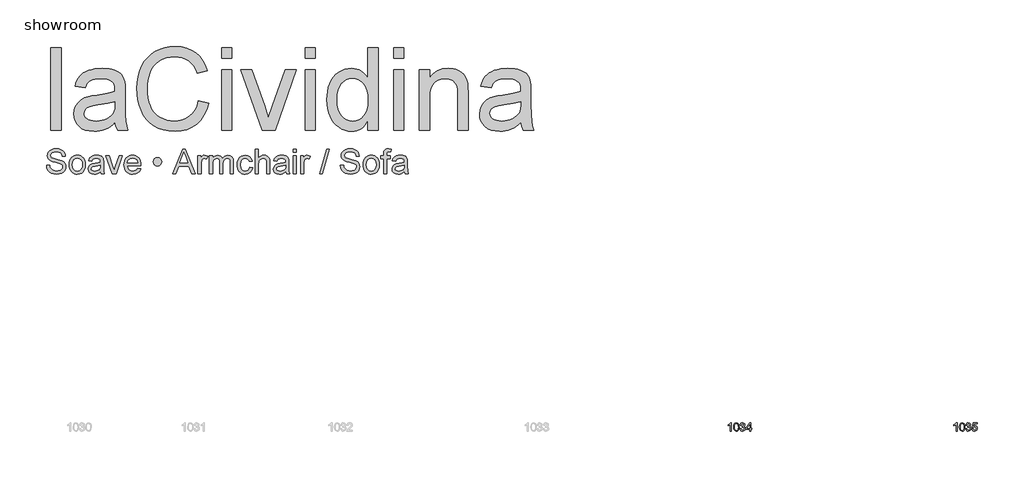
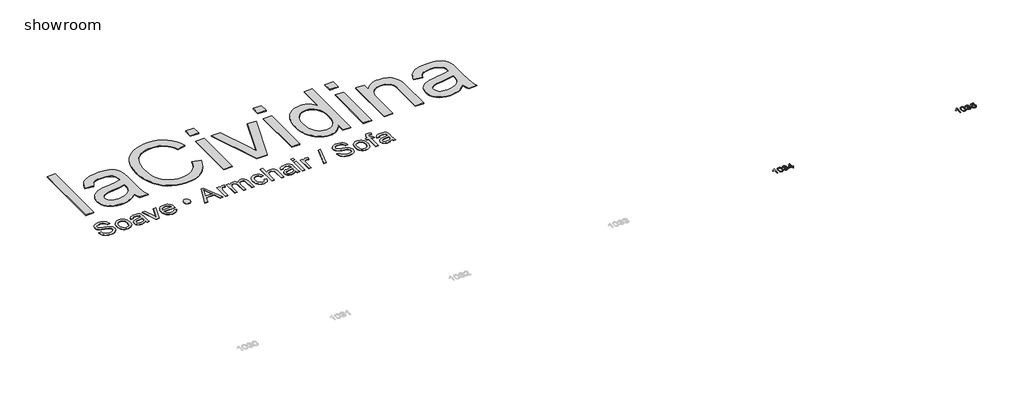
# One storey, part 2 of 2: 4 proxies.
"""IFC4 building model written with IfcOpenShell, lengths in millimetres."""

from ifc_helpers import new_model, si_unit, origin, origin_with_axes, place, context, project, spatial, polyline, outline, extrude, element, save

model = new_model("IFC4")

# Units and contexts
model_context = context("Model", 3, world=origin())
ifc_project = project(units=[si_unit("LENGTHUNIT", "METRE", prefix="MILLI")], contexts=[model_context])

# Site, building, storey
site = spatial("IfcSite", under=ifc_project)
building = spatial("IfcBuilding", under=site)
storey = spatial("IfcBuildingStorey", under=building, Name="showroom", Elevation=0.0)

# Proxies
placement = place(None, origin())
element("IfcBuildingElementProxy", 1, Name="1000mm Arial", ObjectType="1000mm Arial", at=placement, inside=storey, context=model_context, shape_type="SweptSolid", body=[
    extrude(outline(polyline([(-1952.8965336, 4695.1020807), (-1952.8965336, 5699.6651822), (-1827.326146, 5699.6651822), (-1827.326146, 4695.1020807), (-1952.8965336, 4695.1020807)])), origin_with_axes(), (0.0, 0.0, 1.0), 10.0),
    extrude(outline(polyline([(-1168.0816106, 4789.2798714), (-1197.8570596, 4761.3361682), (-1228.0770326, 4737.8377058), (-1258.7415298, 4718.7844841), (-1289.850551, 4704.1765032), (-1321.7566499, 4693.3393128), (-1354.81238, 4685.5984625), (-1389.0177413, 4680.9539523), (-1424.3727339, 4679.4057822), (-1480.283133, 4683.1305874), (-1529.311073, 4694.305003), (-1571.4565541, 4712.929029), (-1606.7195762, 4739.0026654), (-1634.5636447, 4770.8704433), (-1654.4522651, 4806.8768935), (-1666.3854373, 4847.0220163), (-1670.3631613, 4891.3058114), (-1664.3544221, 4943.3611138), (-1656.843498, 4967.5953402), (-1646.3282043, 4990.6339501), (-1618.5224569, 5031.1009696), (-1583.1751285, 5062.7388212), (-1541.6351199, 5086.6511509), (-1495.2513316, 5103.9416046), (-1450.0631599, 5113.5678502), (-1386.6035157, 5122.8262137), (-1258.2126994, 5142.6918415), (-1208.6406006, 5153.9122423), (-1168.8173746, 5165.9910345), (-1168.0816106, 5193.9500661), (-1170.2429173, 5224.3923012), (-1176.7268375, 5249.9907567), (-1187.5333711, 5270.7454326), (-1202.6625181, 5286.6563289), (-1228.8127966, 5302.5365684), (-1260.665246, 5313.8795966), (-1298.2198664, 5320.6854135), (-1341.4766577, 5322.9540191), (-1381.6984225, 5321.4441701), (-1416.27933, 5316.914623), (-1445.2193803, 5309.3653779), (-1468.5185733, 5298.7964348), (-1487.6637655, 5284.3800591), (-1504.1418132, 5265.2885164), (-1517.9527164, 5241.5218066), (-1529.0964752, 5213.0799299), (-1654.6668629, 5228.7762283), (-1645.1095952, 5264.9512912), (-1632.8698547, 5297.4475341), (-1617.9476412, 5326.2649571), (-1600.3429549, 5351.4035601), (-1579.2970391, 5373.3691809), (-1554.0511372, 5392.6676572), (-1524.6052492, 5409.2989891), (-1490.959375, 5423.2631765), (-1453.7956293, 5434.3149647), (-1413.7961265, 5442.2090992), (-1370.9608667, 5446.9455799), (-1325.2898499, 5448.5244068), (-1240.4010795, 5442.9448632), (-1204.5555776, 5435.9704337), (-1173.1093312, 5426.2062324), (-1122.3722727, 5401.0369726), (-1102.8208775, 5386.3140286), (-1087.1475717, 5370.1655418), (-1063.787065, 5331.9977848), (-1048.6425895, 5284.9395463), (-1044.0440646, 5241.5294708), (-1042.5112229, 5175.065457), (-1042.5112229, 5018.8382364), (-1040.9170676, 4882.752555), (-1036.1346017, 4800.6842133), (-1026.6922971, 4746.7588442), (-1011.118626, 4695.1020807), (-1136.6890137, 4695.1020807), (-1156.7998961, 4738.7574108), (-1168.0816106, 4789.2798714)]), holes=[polyline([(-1168.0816106, 5040.4206468), (-1252.4492148, 5019.5126868), (-1370.6619626, 5001.9156646), (-1435.8077326, 4992.2894191), (-1478.6966419, 4981.5595276), (-1506.8089577, 4967.6413254), (-1527.6249472, 4948.450148), (-1540.500817, 4925.4575233), (-1544.7927737, 4900.1349793), (-1542.4551901, 4880.6219052), (-1535.4424396, 4862.7949568), (-1523.7545221, 4846.6541343), (-1507.3914375, 4832.1994375), (-1486.50647, 4820.2892579), (-1461.2529039, 4811.7819868), (-1431.6307391, 4806.6776241), (-1397.6399756, 4804.9761699), (-1362.9364407, 4806.8539009), (-1330.1949431, 4812.487094), (-1299.4154829, 4821.8757491), (-1270.5980599, 4835.0198662), (-1244.6010656, 4850.8311278), (-1222.2828912, 4868.2212162), (-1203.6435368, 4887.1901316), (-1188.6830023, 4907.7378739), (-1179.9917902, 4926.1319736), (-1173.7837815, 4948.450148), (-1168.8173746, 5004.8587206), (-1168.0816106, 5040.4206468)])]), origin_with_axes(), (0.0, 0.0, 1.0), 10.0),
    extrude(outline(polyline([(-147.8222106, 5052.1928707), (-22.2518229, 5019.8192551), (-47.099186, 4941.7286374), (-80.1932372, 4873.4941915), (-121.5339764, 4815.1159174), (-145.296854, 4789.6228448), (-171.1214037, 4766.5938151), (-227.8365446, 4728.4490507), (-290.5604248, 4701.2027904), (-359.2930442, 4684.8550343), (-434.0344029, 4679.4057822), (-510.6075073, 4683.5291262), (-579.6850161, 4695.8991583), (-641.2669293, 4716.5158785), (-695.3532468, 4745.3792867), (-742.6873968, 4782.0601873), (-784.0128076, 4826.1293846), (-819.3294792, 4877.5868787), (-848.6374114, 4936.4326695), (-871.6530288, 5000.1222399), (-888.0927554, 5066.1110728), (-897.9565914, 5134.3991682), (-901.2445368, 5204.986526), (-897.5273958, 5280.7242317), (-886.3759728, 5351.4648737), (-867.7902678, 5417.208452), (-841.7702809, 5477.9549664), (-808.8984918, 5532.7004058), (-769.7573803, 5580.4407589), (-724.3469465, 5621.1760257), (-672.6671904, 5654.9062061), (-616.4732157, 5681.3553887), (-557.5201259, 5700.247662), (-495.8079212, 5711.583026), (-431.3366016, 5715.3614806), (-359.5153062, 5710.4717158), (-293.6567649, 5695.8024212), (-233.7609776, 5671.353597), (-179.8279442, 5637.125243), (-132.746713, 5594.0217359), (-93.4063322, 5542.9474522), (-61.8068016, 5483.902392), (-37.9481214, 5416.8865552), (-163.5185091, 5386.9654863), (-183.2921663, 5436.3459799), (-207.0512119, 5478.5374462), (-234.7956457, 5513.5398852), (-266.5254677, 5541.3532969), (-302.4246191, 5562.5448327), (-342.6770407, 5577.6816439), (-387.2827327, 5586.7637307), (-436.2416949, 5589.7910929), (-492.5736254, 5586.4341697), (-544.0924331, 5576.3634001), (-590.7981181, 5559.5787841), (-632.6906803, 5536.0803216), (-669.2412893, 5506.9256735), (-699.9211149, 5473.1725005), (-724.7301569, 5434.8208025), (-743.6684155, 5391.8705795), (-757.6709239, 5346.2685406), (-767.6727157, 5299.9613944), (-773.6737907, 5252.9491411), (-775.6741491, 5205.2317807), (-773.3059087, 5145.2670154), (-766.2011877, 5089.2263248), (-754.359986, 5037.1097089), (-737.7823036, 4988.9171675), (-716.1998932, 4945.6067268), (-689.3445075, 4908.1364127), (-657.2161466, 4876.5062253), (-619.8148104, 4850.7161646), (-578.9569164, 4830.7049169), (-536.4588817, 4816.4111686), (-492.3207065, 4807.8349196), (-446.5423907, 4804.9761699), (-391.9502355, 4808.8695877), (-341.7266789, 4820.549841), (-295.8717211, 4840.0169299), (-254.3853619, 4867.2708544), (-218.2486201, 4902.1889871), (-188.4425143, 4944.6487007), (-164.9670445, 4994.6499952), (-147.8222106, 5052.1928707)])), origin_with_axes(), (0.0, 0.0, 1.0), 10.0),
    extrude(outline(polyline([(134.7111617, 4695.1020807), (134.7111617, 5432.8281083), (260.2815493, 5432.8281083), (260.2815493, 4695.1020807), (134.7111617, 4695.1020807)])), origin_with_axes(), (0.0, 0.0, 1.0), 10.0),
    extrude(outline(polyline([(134.7111617, 5574.0947945), (134.7111617, 5699.6651822), (260.2815493, 5699.6651822), (260.2815493, 5574.0947945), (134.7111617, 5574.0947945)])), origin_with_axes(), (0.0, 0.0, 1.0), 10.0),
    extrude(outline(polyline([(629.6350725, 4695.1020807), (370.1556386, 5432.8281083), (503.0836662, 5432.8281083), (660.2919054, 4990.8792048), (707.6260555, 4842.2548787), (753.9791869, 4982.5405462), (912.1684448, 5432.8281083), (1045.0964724, 5432.8281083), (788.8053491, 4695.1020807), (629.6350725, 4695.1020807)])), origin_with_axes(), (0.0, 0.0, 1.0), 10.0),
    extrude(outline(polyline([(1154.9705616, 4695.1020807), (1154.9705616, 5432.8281083), (1280.5409493, 5432.8281083), (1280.5409493, 4695.1020807), (1154.9705616, 4695.1020807)])), origin_with_axes(), (0.0, 0.0, 1.0), 10.0),
    extrude(outline(polyline([(1154.9705616, 5574.0947945), (1154.9705616, 5699.6651822), (1280.5409493, 5699.6651822), (1280.5409493, 5574.0947945), (1154.9705616, 5574.0947945)])), origin_with_axes(), (0.0, 0.0, 1.0), 10.0),
    extrude(outline(polyline([(1924.0891862, 4695.1020807), (1924.0891862, 4813.5600831), (1906.2967268, 4782.1176688), (1886.5192374, 4754.8675765), (1864.7567182, 4731.809806), (1841.009169, 4712.9443574), (1815.2765898, 4698.2712308), (1787.5589807, 4687.790426), (1757.8563417, 4681.5019432), (1726.1686728, 4679.4057822), (1684.7206347, 4682.4408087), (1644.9893792, 4691.5458881), (1606.9749064, 4706.7210204), (1570.6772162, 4727.9662056), (1537.2306114, 4754.6453144), (1507.769395, 4786.1222176), (1482.2935668, 4822.3969152), (1460.8031269, 4863.4694071), (1443.7425994, 4908.5579442), (1431.5565083, 4956.8807771), (1424.2448537, 5008.4379059), (1421.8076355, 5063.2293305), (1424.0532485, 5117.0167439), (1430.7900875, 5168.2596401), (1442.0181526, 5216.9580192), (1457.7374436, 5263.1118812), (1477.9402965, 5305.3723254), (1502.6190471, 5342.3904512), (1531.7736952, 5374.1662585), (1565.4042409, 5400.6997474), (1602.322732, 5421.6230359), (1641.3412161, 5436.568242), (1682.4596932, 5445.5353656), (1725.6781635, 5448.5244068), (1757.2853582, 5446.3860927), (1787.1144567, 5439.9711504), (1815.1654588, 5429.2795799), (1841.4383646, 5414.3113812), (1865.6419342, 5395.9249457), (1887.4849277, 5374.9786646), (1906.967345, 5351.4725379), (1924.0891862, 5325.4065657), (1924.0891862, 5699.6651822), (2049.6595739, 5699.6651822), (2049.6595739, 4695.1020807), (1924.0891862, 4695.1020807)]), holes=[polyline([(1547.3780231, 5063.7198398), (1550.9188873, 5002.8277054), (1561.54148, 4950.1362738), (1579.245801, 4905.645545), (1604.0318504, 4869.3555191), (1633.6310226, 4841.1895538), (1665.7747119, 4821.0710072), (1700.4629184, 4808.9998792), (1737.695642, 4804.9761699), (1775.1046424, 4808.8159382), (1809.5859152, 4820.3352432), (1841.1394605, 4839.5340848), (1869.7652782, 4866.4124631), (1893.531988, 4901.1849758), (1910.5082092, 4944.0662209), (1920.693942, 4995.0561983), (1924.0891862, 5054.154908), (1920.6326283, 5118.9481244), (1910.2629545, 5174.5136341), (1892.980165, 5220.851437), (1868.7842596, 5257.9615333), (1839.5299768, 5286.3957458), (1807.0720549, 5306.7058977), (1771.410494, 5318.8919887), (1732.545294, 5322.9540191), (1694.5768065, 5319.0529371), (1659.8886, 5307.3496911), (1628.4806747, 5287.8442812), (1600.3530304, 5260.5367073), (1577.1764647, 5224.8291611), (1560.621775, 5180.1238345), (1550.6889611, 5126.4207274), (1547.3780231, 5063.7198398)])]), origin_with_axes(), (0.0, 0.0, 1.0), 10.0),
    extrude(outline(polyline([(2238.0151554, 4695.1020807), (2238.0151554, 5432.8281083), (2363.5855431, 5432.8281083), (2363.5855431, 4695.1020807), (2238.0151554, 4695.1020807)])), origin_with_axes(), (0.0, 0.0, 1.0), 10.0),
    extrude(outline(polyline([(2238.0151554, 5574.0947945), (2238.0151554, 5699.6651822), (2363.5855431, 5699.6651822), (2363.5855431, 5574.0947945), (2238.0151554, 5574.0947945)])), origin_with_axes(), (0.0, 0.0, 1.0), 10.0),
    extrude(outline(polyline([(2551.9411246, 4695.1020807), (2551.9411246, 5432.8281083), (2677.5115123, 5432.8281083), (2677.5115123, 5329.8211497), (2698.2278672, 5357.6422256), (2721.1361856, 5381.7538247), (2746.2364675, 5402.155947), (2773.5287131, 5418.8485925), (2803.0129221, 5431.8317613), (2834.6890948, 5441.1054532), (2868.5572309, 5446.6696684), (2904.6173307, 5448.5244068), (2966.5134764, 5442.5463244), (2995.5071761, 5435.0737213), (3023.1979605, 5424.6120771), (3048.5358329, 5411.7208789), (3070.4707968, 5396.9596138), (3089.0028523, 5380.3282819), (3104.1319994, 5361.8268833), (3126.9713399, 5319.305856), (3141.7785902, 5269.4885025), (3146.7449972, 5221.8477841), (3148.4004661, 5148.0874441), (3148.4004661, 4695.1020807), (3022.8300785, 4695.1020807), (3022.8300785, 5131.1648723), (3019.2125722, 5196.0960444), (3008.3600533, 5242.2652348), (2999.7378191, 5259.7319654), (2988.3411414, 5275.3439576), (2974.1700204, 5289.1012113), (2957.224456, 5301.0037267), (2917.3399163, 5317.466446), (2871.0174418, 5322.9540191), (2832.8880058, 5319.8730074), (2797.4716996, 5310.6299723), (2764.7685231, 5295.2249137), (2734.7784762, 5273.6578318), (2709.7241795, 5243.4761797), (2691.8282533, 5202.227411), (2681.0906976, 5149.9115256), (2677.5115123, 5086.5285235), (2677.5115123, 4695.1020807), (2551.9411246, 4695.1020807)])), origin_with_axes(), (0.0, 0.0, 1.0), 10.0),
    extrude(outline(polyline([(3791.948703, 4789.2798714), (3762.1732541, 4761.3361682), (3731.953281, 4737.8377058), (3701.2887839, 4718.7844841), (3670.1797626, 4704.1765032), (3638.2736638, 4693.3393128), (3605.2179337, 4685.5984625), (3571.0125723, 4680.9539523), (3535.6575797, 4679.4057822), (3479.7471807, 4683.1305874), (3430.7192406, 4694.305003), (3388.5737595, 4712.929029), (3353.3107375, 4739.0026654), (3325.466669, 4770.8704433), (3305.5780486, 4806.8768935), (3293.6448764, 4847.0220163), (3289.6671523, 4891.3058114), (3295.6758915, 4943.3611138), (3303.1868156, 4967.5953402), (3313.7021093, 4990.6339501), (3341.5078568, 5031.1009696), (3376.8551852, 5062.7388212), (3418.3951938, 5086.6511509), (3464.778982, 5103.9416046), (3509.9671537, 5113.5678502), (3573.4267979, 5122.8262137), (3701.8176142, 5142.6918415), (3751.3897131, 5153.9122423), (3791.2129391, 5165.9910345), (3791.948703, 5193.9500661), (3789.7873963, 5224.3923012), (3783.3034762, 5249.9907567), (3772.4969425, 5270.7454326), (3757.3677955, 5286.6563289), (3731.217517, 5302.5365684), (3699.3650676, 5313.8795966), (3661.8104472, 5320.6854135), (3618.553656, 5322.9540191), (3578.3318912, 5321.4441701), (3543.7509836, 5316.914623), (3514.8109333, 5309.3653779), (3491.5117403, 5298.7964348), (3472.3665481, 5284.3800591), (3455.8885004, 5265.2885164), (3442.0775972, 5241.5218066), (3430.9338384, 5213.0799299), (3305.3634508, 5228.7762283), (3314.9207184, 5264.9512912), (3327.160459, 5297.4475341), (3342.0826724, 5326.2649571), (3359.6873587, 5351.4035601), (3380.7332745, 5373.3691809), (3405.9791764, 5392.6676572), (3435.4250645, 5409.2989891), (3469.0709386, 5423.2631765), (3506.2346843, 5434.3149647), (3546.2341871, 5442.2090992), (3589.0694469, 5446.9455799), (3634.7404638, 5448.5244068), (3719.6292342, 5442.9448632), (3755.4747361, 5435.9704337), (3786.9209824, 5426.2062324), (3837.6580409, 5401.0369726), (3857.2094361, 5386.3140286), (3872.882742, 5370.1655418), (3896.2432487, 5331.9977848), (3911.3877241, 5284.9395463), (3915.9862491, 5241.5294708), (3917.5190907, 5175.065457), (3917.5190907, 5018.8382364), (3919.113246, 4882.752555), (3923.895712, 4800.6842133), (3933.3380165, 4746.7588442), (3948.9116877, 4695.1020807), (3823.3413, 4695.1020807), (3803.2304176, 4738.7574108), (3791.948703, 4789.2798714)]), holes=[polyline([(3791.948703, 5040.4206468), (3707.5810988, 5019.5126868), (3589.368351, 5001.9156646), (3524.2225811, 4992.2894191), (3481.3336718, 4981.5595276), (3453.221356, 4967.6413254), (3432.4053664, 4948.450148), (3419.5294966, 4925.4575233), (3415.23754, 4900.1349793), (3417.5751235, 4880.6219052), (3424.587874, 4862.7949568), (3436.2757916, 4846.6541343), (3452.6388762, 4832.1994375), (3473.5238436, 4820.2892579), (3498.7774097, 4811.7819868), (3528.3995745, 4806.6776241), (3562.3903381, 4804.9761699), (3597.0938729, 4806.8539009), (3629.8353705, 4812.487094), (3660.6148308, 4821.8757491), (3689.4322537, 4835.0198662), (3715.429248, 4850.8311278), (3737.7474224, 4868.2212162), (3756.3867768, 4887.1901316), (3771.3473113, 4907.7378739), (3780.0385234, 4926.1319736), (3786.2465321, 4948.450148), (3791.2129391, 5004.8587206), (3791.948703, 5040.4206468)])]), origin_with_axes(), (0.0, 0.0, 1.0), 10.0),
])
element("IfcBuildingElementProxy", 2, Name="100mm Arial", ObjectType="100mm Arial", at=placement, inside=storey, context=model_context, shape_type="SweptSolid", body=[
    extrude(outline(polyline([(6365.5442765, 1015.1020807), (6352.9872377, 1015.1020807), (6352.9872377, 1093.3873692), (6341.0923866, 1084.9138206), (6327.8731602, 1078.5739876), (6327.8731602, 1090.4443133), (6346.2795227, 1102.1920117), (6357.4508726, 1115.5583908), (6365.5442765, 1115.5583908), (6365.5442765, 1015.1020807)])), origin_with_axes(), (0.0, 0.0, 1.0), 2.0),
    extrude(outline(polyline([(6395.3672436, 1064.5208954), (6399.0583263, 1093.4241574), (6410.0212097, 1110.0892118), (6428.3294703, 1115.5583908), (6442.9956992, 1112.3210293), (6453.1247168, 1102.9890893), (6459.0108287, 1088.1266567), (6461.2916971, 1064.5208954), (6457.6374026, 1035.7402606), (6446.7113074, 1019.038418), (6438.4799477, 1014.9089426), (6428.3294703, 1013.5324508), (6415.2819223, 1015.9236838), (6405.3736338, 1023.0973827), (6397.8688411, 1040.0873995), (6395.3672436, 1064.5208954)]), holes=[polyline([(6407.9242823, 1064.5454208), (6409.3958103, 1044.7932234), (6413.8103943, 1033.3612904), (6420.3832193, 1027.9074398), (6428.3294703, 1026.0894896), (6436.2757214, 1027.9135712), (6442.8485464, 1033.3858158), (6447.2631304, 1044.8238802), (6448.7346583, 1064.5454208), (6447.3121813, 1083.8530942), (6443.0447502, 1095.373932), (6436.4841879, 1101.094497), (6428.1823175, 1103.0013521), (6420.3219056, 1101.3213576), (6414.006598, 1096.2813743), (6409.4448613, 1084.0431666), (6407.9242823, 1064.5454208)])]), origin_with_axes(), (0.0, 0.0, 1.0), 2.0),
    extrude(outline(polyline([(6472.279106, 1041.7857881), (6484.8361448, 1043.3554179), (6491.764589, 1030.1361915), (6504.726298, 1026.0894896), (6513.3347367, 1027.4813098), (6519.9811381, 1031.6567705), (6525.6465208, 1045.4400825), (6520.030189, 1058.426317), (6505.7563676, 1063.5644022), (6496.9517252, 1062.1909761), (6498.3496768, 1074.7480148), (6500.360765, 1074.600862), (6514.610061, 1078.2061056), (6519.3557387, 1082.7801051), (6520.9376313, 1089.2916164), (6516.3513691, 1099.1140656), (6504.5300943, 1103.0013521), (6492.5616667, 1099.0772774), (6486.4057747, 1087.3050536), (6473.8487359, 1088.8746834), (6477.5459499, 1100.1502666), (6484.1249063, 1108.5686329), (6493.1257524, 1113.8109513), (6504.0886359, 1115.5583908), (6519.2331114, 1112.1125628), (6529.8281128, 1102.6947837), (6533.49467, 1090.0273804), (6530.0120538, 1078.4513602), (6519.7113579, 1070.1372272), (6533.3965682, 1061.5533139), (6538.2035596, 1045.2193533), (6535.8000639, 1032.9811456), (6528.5895768, 1022.7540262), (6517.7064011, 1015.8378447), (6504.2848396, 1013.5324508), (6492.1447338, 1015.5006195), (6482.2609708, 1021.4051255), (6475.3877089, 1030.4366285), (6472.279106, 1041.7857881)])), origin_with_axes(), (0.0, 0.0, 1.0), 2.0),
    extrude(outline(polyline([(6590.0013445, 1015.1020807), (6590.0013445, 1038.6465284), (6544.482079, 1038.6465284), (6544.482079, 1051.2035671), (6593.1406042, 1113.988761), (6602.5583833, 1113.988761), (6602.5583833, 1051.2035671), (6615.115422, 1051.2035671), (6615.115422, 1038.6465284), (6602.5583833, 1038.6465284), (6602.5583833, 1015.1020807), (6590.0013445, 1015.1020807)]), holes=[polyline([(6590.0013445, 1051.2035671), (6590.0013445, 1090.0028549), (6559.9331228, 1051.2035671), (6590.0013445, 1051.2035671)])]), origin_with_axes(), (0.0, 0.0, 1.0), 2.0),
])
element("IfcBuildingElementProxy", 3, Name="100mm Arial", ObjectType="100mm Arial", at=placement, inside=storey, context=model_context, shape_type="SweptSolid", body=[
    extrude(outline(polyline([(9125.5442765, 1015.1020807), (9112.9872377, 1015.1020807), (9112.9872377, 1093.3873692), (9101.0923866, 1084.9138206), (9087.8731602, 1078.5739876), (9087.8731602, 1090.4443133), (9106.2795227, 1102.1920117), (9117.4508726, 1115.5583908), (9125.5442765, 1115.5583908), (9125.5442765, 1015.1020807)])), origin_with_axes(), (0.0, 0.0, 1.0), 2.0),
    extrude(outline(polyline([(9155.3672436, 1064.5208954), (9159.0583263, 1093.4241574), (9170.0212097, 1110.0892118), (9188.3294703, 1115.5583908), (9202.9956992, 1112.3210293), (9213.1247168, 1102.9890893), (9219.0108287, 1088.1266567), (9221.2916971, 1064.5208954), (9217.6374026, 1035.7402606), (9206.7113074, 1019.038418), (9198.4799477, 1014.9089426), (9188.3294703, 1013.5324508), (9175.2819223, 1015.9236838), (9165.3736338, 1023.0973827), (9157.8688411, 1040.0873995), (9155.3672436, 1064.5208954)]), holes=[polyline([(9167.9242823, 1064.5454208), (9169.3958103, 1044.7932234), (9173.8103943, 1033.3612904), (9180.3832193, 1027.9074398), (9188.3294703, 1026.0894896), (9196.2757214, 1027.9135712), (9202.8485464, 1033.3858158), (9207.2631304, 1044.8238802), (9208.7346583, 1064.5454208), (9207.3121813, 1083.8530942), (9203.0447502, 1095.373932), (9196.4841879, 1101.094497), (9188.1823175, 1103.0013521), (9180.3219056, 1101.3213576), (9174.006598, 1096.2813743), (9169.4448613, 1084.0431666), (9167.9242823, 1064.5454208)])]), origin_with_axes(), (0.0, 0.0, 1.0), 2.0),
    extrude(outline(polyline([(9232.279106, 1041.7857881), (9244.8361448, 1043.3554179), (9251.764589, 1030.1361915), (9264.726298, 1026.0894896), (9273.3347367, 1027.4813098), (9279.9811381, 1031.6567705), (9285.6465208, 1045.4400825), (9280.030189, 1058.426317), (9265.7563676, 1063.5644022), (9256.9517252, 1062.1909761), (9258.3496768, 1074.7480148), (9260.360765, 1074.600862), (9274.610061, 1078.2061056), (9279.3557387, 1082.7801051), (9280.9376313, 1089.2916164), (9276.3513691, 1099.1140656), (9264.5300943, 1103.0013521), (9252.5616667, 1099.0772774), (9246.4057747, 1087.3050536), (9233.8487359, 1088.8746834), (9237.5459499, 1100.1502666), (9244.1249063, 1108.5686329), (9253.1257524, 1113.8109513), (9264.0886359, 1115.5583908), (9279.2331114, 1112.1125628), (9289.8281128, 1102.6947837), (9293.49467, 1090.0273804), (9290.0120538, 1078.4513602), (9279.7113579, 1070.1372272), (9293.3965682, 1061.5533139), (9298.2035596, 1045.2193533), (9295.8000639, 1032.9811456), (9288.5895768, 1022.7540262), (9277.7064011, 1015.8378447), (9264.2848396, 1013.5324508), (9252.1447338, 1015.5006195), (9242.2609708, 1021.4051255), (9235.3877089, 1030.4366285), (9232.279106, 1041.7857881)])), origin_with_axes(), (0.0, 0.0, 1.0), 2.0),
    extrude(outline(polyline([(9309.1909685, 1041.7857881), (9321.7480073, 1043.3554179), (9328.0755776, 1030.4182344), (9341.1967021, 1026.0894896), (9350.1975482, 1027.5947401), (9356.9420515, 1032.1104916), (9361.1543003, 1039.1155779), (9362.5583833, 1048.0888329), (9357.2976707, 1063.0003164), (9350.6911232, 1067.1022007), (9341.3929058, 1068.4694954), (9330.3687087, 1066.2867289), (9323.3176371, 1060.6213462), (9310.7605983, 1062.1909761), (9321.7480073, 1113.988761), (9370.4065325, 1113.988761), (9370.4065325, 1101.4317222), (9331.9015503, 1101.4317222), (9326.5304732, 1073.7669962), (9335.5006625, 1079.2116497), (9344.9000475, 1081.0265342), (9356.6324175, 1078.7763227), (9366.3720933, 1072.0256881), (9372.9295898, 1061.7372549), (9375.115422, 1048.8736478), (9373.1472534, 1036.3166091), (9367.2427473, 1025.5744548), (9355.9365074, 1016.5429518), (9341.1476511, 1013.5324508), (9328.8144073, 1015.466897), (9318.9888923, 1021.2702355), (9312.2535861, 1030.2680159), (9309.1909685, 1041.7857881)])), origin_with_axes(), (0.0, 0.0, 1.0), 2.0),
])
element("IfcBuildingElementProxy", 4, Name="300mm Arial", ObjectType="300mm Arial", at=placement, inside=storey, context=model_context, shape_type="SweptSolid", body=[
    extrude(outline(polyline([(-2004.4887662, 4263.6976505), (-1966.8176499, 4263.6976505), (-1962.4950365, 4242.7927561), (-1954.6775441, 4225.989746), (-1942.482256, 4212.6540237), (-1925.0262553, 4202.1509927), (-1903.6890996, 4195.3359788), (-1879.8503463, 4193.0643074), (-1858.8626785, 4194.7841558), (-1840.4869728, 4199.9437007), (-1825.596949, 4208.110681), (-1815.0663269, 4218.8528353), (-1808.803136, 4231.1860792), (-1806.7154056, 4244.1263284), (-1808.2789041, 4256.7354838), (-1812.9693996, 4267.6339879), (-1822.4975432, 4276.9322053), (-1838.5739864, 4284.7405006), (-1893.4251919, 4299.1246866), (-1929.4316422, 4308.6436333), (-1952.4702521, 4317.7027274), (-1971.2230368, 4330.3762621), (-1984.5127739, 4345.7353354), (-1992.4314339, 4363.4488535), (-1995.0709872, 4383.1857225), (-1991.8060345, 4405.2494452), (-1982.0111763, 4425.8232458), (-1965.9439302, 4443.2608524), (-1943.8618134, 4455.915993), (-1917.3559157, 4463.6139237), (-1888.0173266, 4466.1799007), (-1856.2323222, 4463.4943621), (-1828.4204434, 4455.4377464), (-1805.5749715, 4442.1756005), (-1788.6891879, 4423.8734712), (-1778.0022159, 4401.6717928), (-1773.7531789, 4376.7109994), (-1811.4242952, 4376.7109994), (-1818.3404767, 4399.1885893), (-1832.7614509, 4415.4121853), (-1855.2942231, 4425.2346346), (-1886.5457986, 4428.5087844), (-1918.5331381, 4425.2714228), (-1940.4772991, 4415.5593381), (-1953.1692279, 4401.2671226), (-1957.3998709, 4384.2893685), (-1954.4016326, 4369.813212), (-1945.4069178, 4358.1697469), (-1924.1433385, 4347.7586864), (-1883.8970482, 4337.1268968), (-1842.363171, 4327.028536), (-1817.2368307, 4318.2177622), (-1795.7617192, 4304.5509461), (-1780.779725, 4287.6835566), (-1771.9781482, 4267.7995348), (-1769.0442893, 4245.0828216), (-1772.4196066, 4221.8602706), (-1782.5455586, 4200.0172771), (-1799.0082778, 4181.2185072), (-1821.3938973, 4167.1286268), (-1848.3136622, 4158.32705), (-1878.3788183, 4155.3931911), (-1915.2865795, 4158.5569763), (-1945.6644352, 4168.0483318), (-1969.8618735, 4183.9040458), (-1988.2283821, 4206.1609065), (-2000.019, 4233.2738095), (-2004.4887662, 4263.6976505)])), origin_with_axes(), (0.0, 0.0, 1.0), 5.0),
    extrude(outline(polyline([(-1726.6642835, 4270.7609848), (-1724.6271369, 4299.4235908), (-1718.5156973, 4324.1222682), (-1708.3299646, 4344.8570172), (-1694.0699387, 4361.6278376), (-1679.7133439, 4372.3469993), (-1663.8668269, 4380.0035433), (-1646.5303879, 4384.5974697), (-1627.7040268, 4386.1287785), (-1606.9209933, 4384.2640766), (-1588.1291212, 4378.6699711), (-1571.3284103, 4369.3464617), (-1556.5188607, 4356.2935487), (-1544.4316379, 4339.9526903), (-1535.7979073, 4320.765345), (-1530.617669, 4298.7315128), (-1528.8909229, 4273.8511936), (-1531.9443434, 4235.7938012), (-1541.1046051, 4206.8230941), (-1556.1049935, 4185.1272534), (-1576.6787941, 4168.8944604), (-1601.1153556, 4158.7685084), (-1627.7040268, 4155.3931911), (-1648.7905629, 4157.2509952), (-1667.757179, 4162.8244074), (-1684.6038751, 4172.1134278), (-1699.3306513, 4185.1180563), (-1711.2891154, 4201.6175638), (-1719.8308754, 4221.3912211), (-1724.9559315, 4244.4390281), (-1726.6642835, 4270.7609848)]), holes=[polyline([(-1688.9931672, 4270.8345612), (-1684.6337655, 4236.7410973), (-1671.5555606, 4212.4516886), (-1651.8738739, 4197.9111527), (-1627.7040268, 4193.0643074), (-1603.6445443, 4197.9387439), (-1583.9996458, 4212.5620532), (-1570.9214408, 4237.1733587), (-1566.5620392, 4272.0117836), (-1570.949032, 4305.1119661), (-1584.1100104, 4329.0702811), (-1603.7825001, 4343.6108169), (-1627.7040268, 4348.4576622), (-1651.8738739, 4343.629211), (-1671.5555606, 4329.1438575), (-1684.6337655, 4304.909631), (-1688.9931672, 4270.8345612)])]), origin_with_axes(), (0.0, 0.0, 1.0), 5.0),
    extrude(outline(polyline([(-1345.2442309, 4188.3554179), (-1363.2428575, 4172.9227682), (-1381.774913, 4162.8244074), (-1401.2634617, 4157.2509952), (-1422.1315679, 4155.3931911), (-1453.6130696, 4159.8629574), (-1476.8356206, 4173.2722561), (-1491.1554272, 4193.6345245), (-1495.9286961, 4218.9631999), (-1494.1260743, 4234.5797906), (-1488.718209, 4248.7616415), (-1480.3764848, 4260.9017474), (-1469.7722863, 4270.3931028), (-1443.3951472, 4282.7539379), (-1410.8008024, 4288.4193206), (-1372.2835575, 4294.3790089), (-1345.4649601, 4301.3687668), (-1345.2442309, 4309.7564763), (-1347.837799, 4326.5686835), (-1355.6185032, 4337.5683551), (-1373.0193215, 4345.7353354), (-1397.262745, 4348.4576622), (-1419.7035467, 4346.6458434), (-1435.3753197, 4341.2103869), (-1446.0622917, 4331.1580114), (-1453.5486903, 4315.4954354), (-1491.2198066, 4320.204325), (-1484.6807041, 4340.8057167), (-1474.9226342, 4356.9925245), (-1461.0350889, 4369.3717536), (-1442.1075602, 4378.5504094), (-1418.9585857, 4384.2341862), (-1392.4067027, 4386.1287785), (-1366.9400716, 4384.4549154), (-1346.7525471, 4379.4333262), (-1331.5314295, 4371.8825482), (-1320.9640192, 4362.621119), (-1313.9558672, 4351.1707919), (-1309.4125246, 4337.0533204), (-1307.5731146, 4304.0910936), (-1307.5731146, 4257.2229274), (-1305.6601282, 4191.7767205), (-1298.1553355, 4160.1020807), (-1335.8264518, 4160.1020807), (-1345.2442309, 4188.3554179)]), holes=[polyline([(-1345.2442309, 4263.6976505), (-1406.0183365, 4252.1461559), (-1438.4287403, 4246.0393147), (-1453.1072319, 4236.1065009), (-1458.2575798, 4221.6119503), (-1455.4524796, 4210.4099435), (-1447.037179, 4201.2312877), (-1433.1956189, 4195.1060525), (-1414.1117404, 4193.0643074), (-1393.8782307, 4195.3175847), (-1375.9991657, 4202.0774163), (-1361.5046151, 4212.0378213), (-1351.4246484, 4223.8928186), (-1346.9548822, 4236.1065009), (-1345.4649601, 4253.0290727), (-1345.2442309, 4263.6976505)])]), origin_with_axes(), (0.0, 0.0, 1.0), 5.0),
    extrude(outline(polyline([(-1201.4759472, 4160.1020807), (-1279.3197774, 4381.419889), (-1239.4413691, 4381.419889), (-1192.2788973, 4248.8352179), (-1178.0786523, 4204.2479201), (-1164.1727129, 4246.3336203), (-1116.7159355, 4381.419889), (-1076.8375272, 4381.419889), (-1153.7248642, 4160.1020807), (-1201.4759472, 4160.1020807)])), origin_with_axes(), (0.0, 0.0, 1.0), 5.0),
    extrude(outline(polyline([(-888.9234041, 4226.0265342), (-851.9880518, 4221.3176447), (-865.2961829, 4193.4873717), (-886.5321711, 4172.6836449), (-915.2177697, 4159.7158046), (-950.8747321, 4155.3931911), (-974.2490343, 4157.257893), (-995.0757538, 4162.8519986), (-1013.3548904, 4172.1755079), (-1029.0864442, 4185.2284209), (-1041.7369863, 4201.6474542), (-1050.7730879, 4221.0693243), (-1056.1947488, 4243.4940312), (-1058.0019691, 4268.9215748), (-1056.1763547, 4295.2113419), (-1050.6995115, 4318.3833091), (-1041.5714394, 4338.4374764), (-1028.7921386, 4355.3738437), (-1013.1019715, 4368.8291277), (-995.2413007, 4378.4400448), (-975.210126, 4384.2065951), (-953.0084476, 4386.1287785), (-931.5218399, 4384.2111936), (-912.0907727, 4378.4584389), (-894.7152462, 4368.8705144), (-879.3952604, 4355.4474201), (-866.8895718, 4338.547841), (-857.9569371, 4318.5304619), (-852.5973563, 4295.3952829), (-850.8108294, 4269.142304), (-851.0315586, 4258.988761), (-1020.3308528, 4258.988761), (-1013.8101444, 4230.790606), (-998.6626032, 4210.0604556), (-976.8012157, 4197.3133445), (-950.1389681, 4193.0643074), (-930.0893993, 4195.0324761), (-913.2036158, 4200.9369821), (-899.4816173, 4211.1457075), (-888.9234041, 4226.0265342)]), holes=[polyline([(-1020.3308528, 4296.6598773), (-888.4819457, 4296.6598773), (-893.5771113, 4316.5622932), (-903.5651075, 4330.7993264), (-925.5276626, 4344.0430783), (-953.1556004, 4348.4576622), (-978.5486552, 4344.9351921), (-999.54552, 4334.3677818), (-1014.1412382, 4317.8958655), (-1020.3308528, 4296.6598773)])]), origin_with_axes(), (0.0, 0.0, 1.0), 5.0),
    extrude(outline(polyline([(-700.1263642, 4306.1512328), (-696.3187855, 4326.0444516), (-684.8960496, 4342.7554913), (-668.1574188, 4354.0954538), (-648.4021556, 4357.8754413), (-628.5365279, 4354.0954538), (-611.7611089, 4342.7554913), (-600.338373, 4326.0444516), (-596.5307943, 4306.1512328), (-600.338373, 4286.285605), (-611.7611089, 4269.510186), (-628.5365279, 4258.0874501), (-648.4021556, 4254.2798714), (-668.1574188, 4258.0874501), (-684.8960496, 4269.510186), (-696.3187855, 4286.285605), (-700.1263642, 4306.1512328)])), origin_with_axes(), (0.0, 0.0, 1.0), 5.0),
    extrude(outline(polyline([(-462.1067133, 4160.1020807), (-341.8093008, 4461.4710111), (-309.7299909, 4461.4710111), (-189.4325784, 4160.1020807), (-229.2374103, 4160.1020807), (-263.7447415, 4254.2798714), (-387.8681266, 4254.2798714), (-422.3018814, 4160.1020807), (-462.1067133, 4160.1020807)]), holes=[polyline([(-374.0357636, 4291.9509877), (-277.5035281, 4291.9509877), (-304.6532193, 4366.0424216), (-325.7696459, 4423.7998948), (-344.5316276, 4372.5171447), (-374.0357636, 4291.9509877)])]), origin_with_axes(), (0.0, 0.0, 1.0), 5.0),
    extrude(outline(polyline([(-153.8951777, 4160.1020807), (-153.8951777, 4381.419889), (-120.9329509, 4381.419889), (-120.9329509, 4348.6783914), (-108.7560569, 4367.6611024), (-97.5356561, 4378.844715), (-86.278467, 4384.3077626), (-73.9912084, 4386.1287785), (-55.2292266, 4383.2225107), (-36.1729393, 4374.5037075), (-48.7545035, 4340.7321403), (-61.9982553, 4346.5262817), (-75.2420071, 4348.4576622), (-86.4899991, 4346.5998581), (-96.5423747, 4341.0264459), (-104.6633697, 4332.1604898), (-110.1172203, 4320.4250542), (-114.6973511, 4299.382204), (-116.2240614, 4276.4263675), (-116.2240614, 4160.1020807), (-153.8951777, 4160.1020807)])), origin_with_axes(), (0.0, 0.0, 1.0), 5.0),
    extrude(outline(polyline([(-12.6284916, 4160.1020807), (-12.6284916, 4381.419889), (25.0426247, 4381.419889), (25.0426247, 4344.9995714), (36.3733902, 4361.7290052), (50.9415172, 4374.8348013), (68.2503651, 4383.3052842), (87.8032931, 4386.1287785), (108.7541727, 4383.2501019), (125.5479858, 4374.6140721), (138.0927619, 4360.7909061), (146.2965304, 4342.3508211), (160.0277258, 4361.5036775), (175.6903018, 4375.1842892), (193.2842582, 4383.3926562), (212.8095951, 4386.1287785), (241.1273117, 4381.5762388), (262.0689942, 4367.9186197), (275.0092434, 4344.7880393), (279.3226598, 4311.8166155), (279.3226598, 4160.1020807), (241.6515435, 4160.1020807), (241.6515435, 4295.6298077), (238.1566645, 4327.0837183), (233.2454399, 4335.7565363), (225.5015239, 4342.5715503), (215.5411189, 4346.9861342), (203.9804272, 4348.4576622), (183.5721735, 4344.6868718), (166.9347103, 4333.3745004), (155.8706593, 4313.747996), (152.1826423, 4285.0348062), (152.1826423, 4160.1020807), (114.511526, 4160.1020807), (114.511526, 4299.8236624), (112.3318251, 4321.12403), (105.7927227, 4336.3175564), (94.2872133, 4345.4226357), (77.2082917, 4348.4576622), (62.6953469, 4346.4343112), (49.3228364, 4340.3642583), (38.2863766, 4330.3946562), (30.7815839, 4316.6726578), (26.4773645, 4297.6347646), (25.0426247, 4271.717478), (25.0426247, 4160.1020807), (-12.6284916, 4160.1020807)])), origin_with_axes(), (0.0, 0.0, 1.0), 5.0),
    extrude(outline(polyline([(477.0960204, 4240.1532028), (514.7671367, 4235.4443133), (504.2641058, 4201.9394606), (484.5272367, 4176.6199823), (457.4143337, 4160.6998889), (424.7832007, 4155.3931911), (403.6552779, 4157.2440974), (384.7116544, 4162.7968163), (367.9523302, 4172.0513477), (353.3773054, 4185.0076917), (341.5797897, 4201.4221265), (333.1529928, 4221.0509302), (328.0969146, 4243.8941029), (326.4115552, 4269.9516444), (329.2902318, 4303.4748912), (337.9262616, 4332.5283718), (352.4576004, 4355.9900461), (373.022204, 4372.7378739), (397.6243124, 4382.7810524), (424.2681659, 4386.1287785), (456.0991555, 4381.5302536), (481.5473926, 4367.7346787), (499.8035366, 4345.477818), (510.0582472, 4315.4954354), (472.3871309, 4310.7865459), (465.5537228, 4327.221674), (454.9127361, 4339.0030949), (441.0527819, 4346.0940204), (424.5624715, 4348.4576622), (400.2178805, 4343.803955), (380.8948787, 4329.8428332), (368.2857233, 4305.820139), (364.0826715, 4270.981714), (368.1937528, 4235.6742395), (380.5269967, 4211.5687718), (399.5005106, 4197.6904235), (423.5324019, 4193.0643074), (443.0393447, 4195.9521811), (459.0330145, 4204.6158021), (470.6672825, 4219.2758996), (477.0960204, 4240.1532028)])), origin_with_axes(), (0.0, 0.0, 1.0), 5.0),
    extrude(outline(polyline([(547.7293635, 4160.1020807), (547.7293635, 4461.4710111), (585.4004798, 4461.4710111), (585.4004798, 4350.6649542), (599.2374413, 4366.1803773), (614.7758571, 4377.2628224), (632.0157271, 4383.9122895), (650.9570513, 4386.1287785), (673.7105527, 4383.7099544), (693.2634808, 4376.453482), (708.6593423, 4364.9295785), (718.941644, 4349.708461), (724.7357855, 4328.7943696), (726.6671659, 4300.1915444), (726.6671659, 4160.1020807), (688.9960496, 4160.1020807), (688.9960496, 4296.2919953), (685.9978114, 4319.8732312), (677.0030966, 4336.0232508), (662.508546, 4345.3490593), (643.0108002, 4348.4576622), (627.0907069, 4346.3607348), (612.1455008, 4340.0699527), (599.7662717, 4330.1923211), (591.5441091, 4317.3348454), (586.9363871, 4300.2467267), (585.4004798, 4277.6771663), (585.4004798, 4160.1020807), (547.7293635, 4160.1020807)])), origin_with_axes(), (0.0, 0.0, 1.0), 5.0),
    extrude(outline(polyline([(919.731637, 4188.3554179), (901.7330104, 4172.9227682), (883.2009549, 4162.8244074), (863.7124062, 4157.2509952), (842.8443, 4155.3931911), (811.3627983, 4159.8629574), (788.1402473, 4173.2722561), (773.8204407, 4193.6345245), (769.0471718, 4218.9631999), (770.8497936, 4234.5797906), (776.2576589, 4248.7616415), (784.5993831, 4260.9017474), (795.2035816, 4270.3931028), (821.5807207, 4282.7539379), (854.1750655, 4288.4193206), (892.6923104, 4294.3790089), (919.5109078, 4301.3687668), (919.731637, 4309.7564763), (917.1380689, 4326.5686835), (909.3573647, 4337.5683551), (891.9565464, 4345.7353354), (867.7131229, 4348.4576622), (845.2723212, 4346.6458434), (829.6005482, 4341.2103869), (818.9135762, 4331.1580114), (811.4271776, 4315.4954354), (773.7560613, 4320.204325), (780.2951638, 4340.8057167), (790.0532337, 4356.9925245), (803.940779, 4369.3717536), (822.8683077, 4378.5504094), (846.0172822, 4384.2341862), (872.5691652, 4386.1287785), (898.0357963, 4384.4549154), (918.2233208, 4379.4333262), (933.4444384, 4371.8825482), (944.0118487, 4362.621119), (951.0200007, 4351.1707919), (955.5633433, 4337.0533204), (957.4027533, 4304.0910936), (957.4027533, 4257.2229274), (959.3157397, 4191.7767205), (966.8205324, 4160.1020807), (929.1494161, 4160.1020807), (919.731637, 4188.3554179)]), holes=[polyline([(919.731637, 4263.6976505), (858.9575314, 4252.1461559), (826.5471276, 4246.0393147), (811.868636, 4236.1065009), (806.7182881, 4221.6119503), (809.5233883, 4210.4099435), (817.9386889, 4201.2312877), (831.780249, 4195.1060525), (850.8641275, 4193.0643074), (871.0976372, 4195.3175847), (888.9767022, 4202.0774163), (903.4712528, 4212.0378213), (913.5512195, 4223.8928186), (918.0209857, 4236.1065009), (919.5109078, 4253.0290727), (919.731637, 4263.6976505)])]), origin_with_axes(), (0.0, 0.0, 1.0), 5.0),
    extrude(outline(polyline([(1009.2005382, 4160.1020807), (1009.2005382, 4381.419889), (1046.8716545, 4381.419889), (1046.8716545, 4160.1020807), (1009.2005382, 4160.1020807)])), origin_with_axes(), (0.0, 0.0, 1.0), 5.0),
    extrude(outline(polyline([(1009.2005382, 4423.7998948), (1009.2005382, 4461.4710111), (1046.8716545, 4461.4710111), (1046.8716545, 4423.7998948), (1009.2005382, 4423.7998948)])), origin_with_axes(), (0.0, 0.0, 1.0), 5.0),
    extrude(outline(polyline([(1103.378329, 4160.1020807), (1103.378329, 4381.419889), (1136.3405558, 4381.419889), (1136.3405558, 4348.6783914), (1148.5174498, 4367.6611024), (1159.7378507, 4378.844715), (1170.9950397, 4384.3077626), (1183.2822984, 4386.1287785), (1202.0442801, 4383.2225107), (1221.1005675, 4374.5037075), (1208.5190032, 4340.7321403), (1195.2752514, 4346.5262817), (1182.0314996, 4348.4576622), (1170.7835076, 4346.5998581), (1160.7311321, 4341.0264459), (1152.610137, 4332.1604898), (1147.1562864, 4320.4250542), (1142.5761556, 4299.382204), (1141.0494453, 4276.4263675), (1141.0494453, 4160.1020807), (1103.378329, 4160.1020807)])), origin_with_axes(), (0.0, 0.0, 1.0), 5.0),
    extrude(outline(polyline([(1334.1139164, 4160.1020807), (1418.8739281, 4461.4710111), (1452.8662244, 4461.4710111), (1368.1062127, 4160.1020807), (1334.1139164, 4160.1020807)])), origin_with_axes(), (0.0, 0.0, 1.0), 5.0),
    extrude(outline(polyline([(1588.3939514, 4263.6976505), (1626.0650678, 4263.6976505), (1630.3876812, 4242.7927561), (1638.2051736, 4225.989746), (1650.4004617, 4212.6540237), (1667.8564624, 4202.1509927), (1689.1936181, 4195.3359788), (1713.0323714, 4193.0643074), (1734.0200392, 4194.7841558), (1752.3957449, 4199.9437007), (1767.2857686, 4208.110681), (1777.8163908, 4218.8528353), (1784.0795817, 4231.1860792), (1786.1673121, 4244.1263284), (1784.6038136, 4256.7354838), (1779.9133181, 4267.6339879), (1770.3851745, 4276.9322053), (1754.3087313, 4284.7405006), (1699.4575258, 4299.1246866), (1663.4510755, 4308.6436333), (1640.4124656, 4317.7027274), (1621.6596809, 4330.3762621), (1608.3699438, 4345.7353354), (1600.4512838, 4363.4488535), (1597.8117305, 4383.1857225), (1601.0766832, 4405.2494452), (1610.8715414, 4425.8232458), (1626.9387875, 4443.2608524), (1649.0209043, 4455.915993), (1675.526802, 4463.6139237), (1704.8653911, 4466.1799007), (1736.6503955, 4463.4943621), (1764.4622743, 4455.4377464), (1787.3077462, 4442.1756005), (1804.1935298, 4423.8734712), (1814.8805018, 4401.6717928), (1819.1295388, 4376.7109994), (1781.4584225, 4376.7109994), (1774.542241, 4399.1885893), (1760.1212668, 4415.4121853), (1737.5884946, 4425.2346346), (1706.3369191, 4428.5087844), (1674.3495796, 4425.2714228), (1652.4054186, 4415.5593381), (1639.7134898, 4401.2671226), (1635.4828468, 4384.2893685), (1638.4810851, 4369.813212), (1647.4757999, 4358.1697469), (1668.7393792, 4347.7586864), (1708.9856695, 4337.1268968), (1750.5195467, 4327.028536), (1775.645887, 4318.2177622), (1797.1209985, 4304.5509461), (1812.1029927, 4287.6835566), (1820.9045694, 4267.7995348), (1823.8384284, 4245.0828216), (1820.4631111, 4221.8602706), (1810.3371591, 4200.0172771), (1793.8744399, 4181.2185072), (1771.4888204, 4167.1286268), (1744.5690554, 4158.32705), (1714.5038994, 4155.3931911), (1677.5961382, 4158.5569763), (1647.2182825, 4168.0483318), (1623.0208442, 4183.9040458), (1604.6543356, 4206.1609065), (1592.8637177, 4233.2738095), (1588.3939514, 4263.6976505)])), origin_with_axes(), (0.0, 0.0, 1.0), 5.0),
    extrude(outline(polyline([(1866.2184342, 4270.7609848), (1868.2555808, 4299.4235908), (1874.3670204, 4324.1222682), (1884.5527531, 4344.8570172), (1898.812779, 4361.6278376), (1913.1693738, 4372.3469993), (1929.0158908, 4380.0035433), (1946.3523298, 4384.5974697), (1965.1786909, 4386.1287785), (1985.9617244, 4384.2640766), (2004.7535965, 4378.6699711), (2021.5543074, 4369.3464617), (2036.363857, 4356.2935487), (2048.4510798, 4339.9526903), (2057.0848103, 4320.765345), (2062.2650487, 4298.7315128), (2063.9917948, 4273.8511936), (2060.9383742, 4235.7938012), (2051.7781126, 4206.8230941), (2036.7777242, 4185.1272534), (2016.2039236, 4168.8944604), (1991.7673621, 4158.7685084), (1965.1786909, 4155.3931911), (1944.0921548, 4157.2509952), (1925.1255387, 4162.8244074), (1908.2788426, 4172.1134278), (1893.5520664, 4185.1180563), (1881.5936023, 4201.6175638), (1873.0518423, 4221.3912211), (1867.9267862, 4244.4390281), (1866.2184342, 4270.7609848)]), holes=[polyline([(1903.8895505, 4270.8345612), (1908.2489522, 4236.7410973), (1921.3271571, 4212.4516886), (1941.0088438, 4197.9111527), (1965.1786909, 4193.0643074), (1989.2381734, 4197.9387439), (2008.8830719, 4212.5620532), (2021.9612769, 4237.1733587), (2026.3206785, 4272.0117836), (2021.9336857, 4305.1119661), (2008.7727073, 4329.0702811), (1989.1002176, 4343.6108169), (1965.1786909, 4348.4576622), (1941.0088438, 4343.629211), (1921.3271571, 4329.1438575), (1908.2489522, 4304.909631), (1903.8895505, 4270.8345612)])]), origin_with_axes(), (0.0, 0.0, 1.0), 5.0),
    extrude(outline(polyline([(2115.7895797, 4160.1020807), (2115.7895797, 4343.7487727), (2082.827353, 4343.7487727), (2082.827353, 4381.419889), (2115.7895797, 4381.419889), (2115.7895797, 4403.7135379), (2119.7627053, 4435.1306603), (2127.3410744, 4447.6570422), (2139.0397218, 4457.571462), (2155.4104706, 4464.027791), (2177.0051437, 4466.1799007), (2211.3653221, 4462.0596223), (2205.8470921, 4426.7429508), (2184.1420544, 4428.5087844), (2169.8222478, 4426.9452859), (2160.4136657, 4422.2547904), (2155.1989385, 4413.2968639), (2153.460696, 4398.9310719), (2153.460696, 4381.419889), (2195.8407019, 4381.419889), (2195.8407019, 4343.7487727), (2153.460696, 4343.7487727), (2153.460696, 4160.1020807), (2115.7895797, 4160.1020807)])), origin_with_axes(), (0.0, 0.0, 1.0), 5.0),
    extrude(outline(polyline([(2370.0696148, 4188.3554179), (2352.0709882, 4172.9227682), (2333.5389327, 4162.8244074), (2314.050384, 4157.2509952), (2293.1822778, 4155.3931911), (2261.7007761, 4159.8629574), (2238.4782251, 4173.2722561), (2224.1584185, 4193.6345245), (2219.3851496, 4218.9631999), (2221.1877713, 4234.5797906), (2226.5956367, 4248.7616415), (2234.9373609, 4260.9017474), (2245.5415594, 4270.3931028), (2271.9186985, 4282.7539379), (2304.5130433, 4288.4193206), (2343.0302882, 4294.3790089), (2369.8488856, 4301.3687668), (2370.0696148, 4309.7564763), (2367.4760467, 4326.5686835), (2359.6953425, 4337.5683551), (2342.2945242, 4345.7353354), (2318.0511007, 4348.4576622), (2295.610299, 4346.6458434), (2279.938526, 4341.2103869), (2269.251554, 4331.1580114), (2261.7651554, 4315.4954354), (2224.0940391, 4320.204325), (2230.6331416, 4340.8057167), (2240.3912115, 4356.9925245), (2254.2787568, 4369.3717536), (2273.2062855, 4378.5504094), (2296.35526, 4384.2341862), (2322.907143, 4386.1287785), (2348.3737741, 4384.4549154), (2368.5612986, 4379.4333262), (2383.7824162, 4371.8825482), (2394.3498265, 4362.621119), (2401.3579785, 4351.1707919), (2405.9013211, 4337.0533204), (2407.7407311, 4304.0910936), (2407.7407311, 4257.2229274), (2409.6537175, 4191.7767205), (2417.1585102, 4160.1020807), (2379.4873939, 4160.1020807), (2370.0696148, 4188.3554179)]), holes=[polyline([(2370.0696148, 4263.6976505), (2309.2955092, 4252.1461559), (2276.8851054, 4246.0393147), (2262.2066138, 4236.1065009), (2257.0562659, 4221.6119503), (2259.8613661, 4210.4099435), (2268.2766667, 4201.2312877), (2282.1182268, 4195.1060525), (2301.2021053, 4193.0643074), (2321.435615, 4195.3175847), (2339.31468, 4202.0774163), (2353.8092306, 4212.0378213), (2363.8891973, 4223.8928186), (2368.3589635, 4236.1065009), (2369.8488856, 4253.0290727), (2370.0696148, 4263.6976505)])]), origin_with_axes(), (0.0, 0.0, 1.0), 5.0),
])

save(model, "model.ifc")
